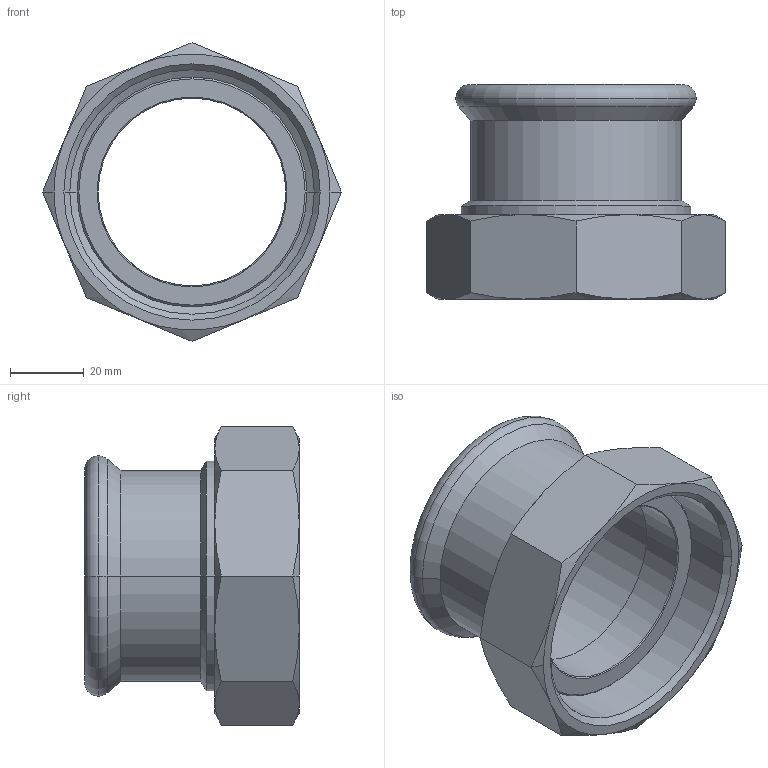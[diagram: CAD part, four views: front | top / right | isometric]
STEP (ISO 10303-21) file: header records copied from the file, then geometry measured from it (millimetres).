
FILE_DESCRIPTION(('CoCreate Modeling STEP Export'),'2;1');
FILE_NAME('C1446 54xG2 3-8.stp','2014-11-12T16:56:16',(''),(''),'CoCreate Modeling STEP processor for AP214 (Solid Model)','CoCreate Modeling 17.00A 17-Jun-2010 (C) Parametric Technology GmbH','');
FILE_SCHEMA(('AUTOMOTIVE_DESIGN { 1 0 10303 214 1 1 1 1 }'));
Length unit declared in the file: millimetre
Products named in the file (2): C1446_54xG2.3_8
Assembly tree (1 placements, depth 2):
  C1446_54xG2.3_8
    C1446_54xG2.3_8
Bounding box: 81.18 x 58.33 x 81.18 mm (x, y, z)
Volume: 55566 mm3; surface area: 31409.4 mm2
Topology: 1 solids, 1 shells, 73 faces, 155 edges, 87 vertices
Faces by surface type: cone 36, cylinder 16, plane 13, torus 8
Entity records: 2886 total; most frequent: CARTESIAN_POINT 1589, ORIENTED_EDGE 310, DIRECTION 181, EDGE_CURVE 155, VERTEX_POINT 87, EDGE_LOOP 78, FACE_OUTER_BOUND 73, ADVANCED_FACE 73
